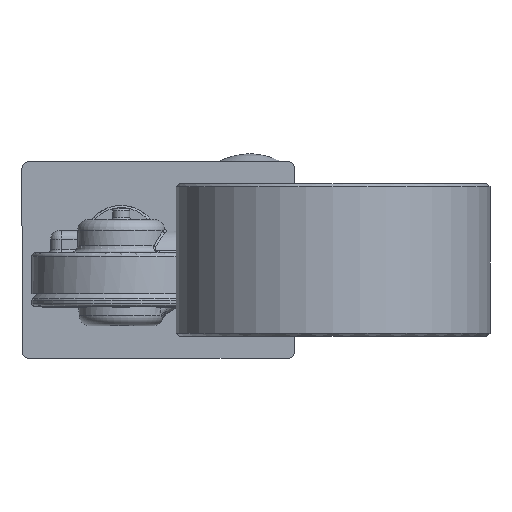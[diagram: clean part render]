
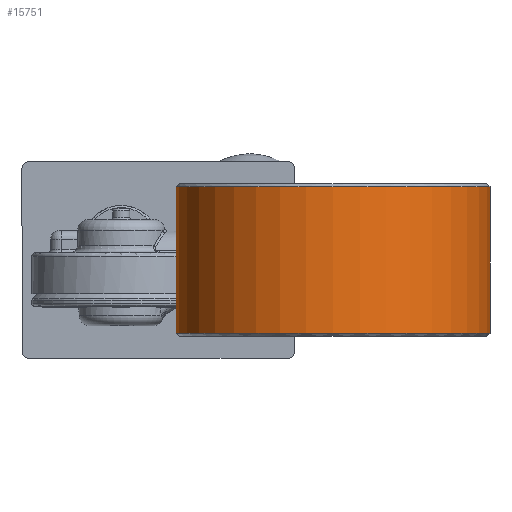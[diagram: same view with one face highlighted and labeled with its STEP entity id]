
A CAD part, left-side view. The second image highlights one B-rep face of the part: STEP entity #15751.
In plain terms, the highlighted cylindrical face has radius 72 mm (diameter 144 mm), a partial arc.
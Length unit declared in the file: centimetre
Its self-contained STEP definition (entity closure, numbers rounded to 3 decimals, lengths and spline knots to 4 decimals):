
#2906=VECTOR('',#20079,1.);
#2908=VECTOR('',#20081,1.);
#3909=LINE('',#34138,#2906);
#3911=LINE('',#34150,#2908);
#6151=VERTEX_POINT('',#34125);
#6152=VERTEX_POINT('',#34127);
#6156=VERTEX_POINT('',#34139);
#6159=VERTEX_POINT('',#34149);
#6705=CIRCLE('',#16980,7.2);
#6709=CIRCLE('',#16986,7.2);
#8652=EDGE_CURVE('',#6151,#6152,#6705,.T.);
#8657=EDGE_CURVE('',#6152,#6156,#3909,.T.);
#8661=EDGE_CURVE('',#6151,#6159,#3911,.T.);
#8663=EDGE_CURVE('',#6156,#6159,#6709,.T.);
#12558=ORIENTED_EDGE('',*,*,#8652,.F.);
#12559=ORIENTED_EDGE('',*,*,#8661,.T.);
#12560=ORIENTED_EDGE('',*,*,#8663,.F.);
#12561=ORIENTED_EDGE('',*,*,#8657,.F.);
#13728=EDGE_LOOP('',(#12558,#12559,#12560,#12561));
#14872=FACE_BOUND('',#13728,.T.);
#15751=ADVANCED_FACE('',(#14872),#34456,.T.);
#16980=AXIS2_PLACEMENT_3D('',#34126,#20070,#20071);
#16985=AXIS2_PLACEMENT_3D('',#34152,#20083,#20084);
#16986=AXIS2_PLACEMENT_3D('',#34153,#20085,#20086);
#20070=DIRECTION('',(0.,0.,1.));
#20071=DIRECTION('',(-7.2,0.,0.));
#20079=DIRECTION('',(0.,0.,-1.));
#20081=DIRECTION('',(0.,0.,-1.));
#20083=DIRECTION('',(0.,0.,-1.));
#20084=DIRECTION('',(-7.2,0.,0.));
#20085=DIRECTION('',(0.,0.,-1.));
#20086=DIRECTION('',(-7.2,0.,0.));
#34125=CARTESIAN_POINT('',(-5.519,-5.0841,5.5968));
#34126=CARTESIAN_POINT('',(-12.519,-6.7693,5.5968));
#34127=CARTESIAN_POINT('',(-5.519,-8.4546,5.5968));
#34138=CARTESIAN_POINT('',(-5.519,-8.4546,5.7468));
#34139=CARTESIAN_POINT('',(-5.519,-8.4546,-1.1032));
#34149=CARTESIAN_POINT('',(-5.519,-5.0841,-1.1032));
#34150=CARTESIAN_POINT('',(-5.519,-5.0841,5.7468));
#34152=CARTESIAN_POINT('',(-12.519,-6.7693,5.7468));
#34153=CARTESIAN_POINT('',(-12.519,-6.7693,-1.1032));
#34456=CYLINDRICAL_SURFACE('',#16985,7.2);
